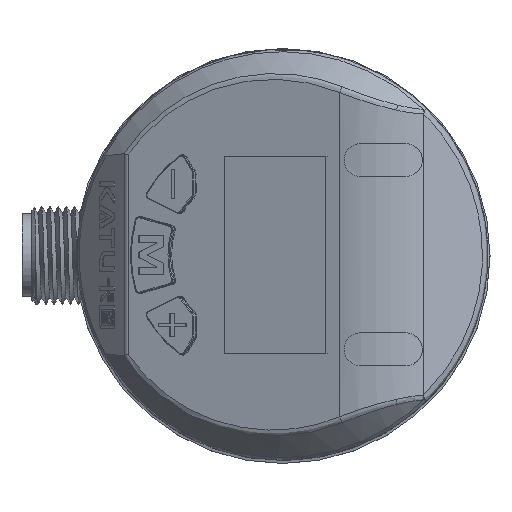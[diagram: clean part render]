
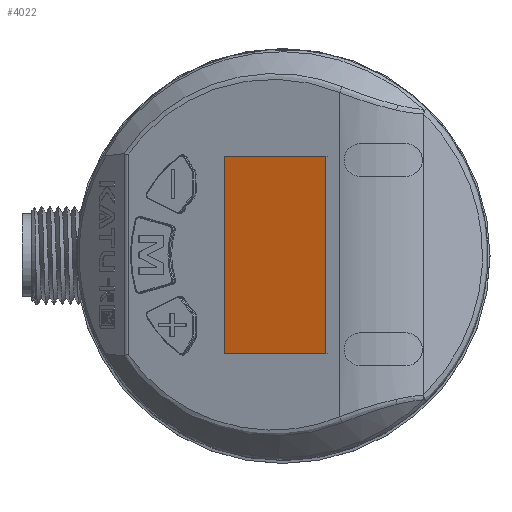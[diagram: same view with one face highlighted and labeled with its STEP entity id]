
A CAD part, top view. The second image highlights one B-rep face of the part: STEP entity #4022.
In plain terms, the highlighted planar face has unit normal (-0.342, 0, 0.94).
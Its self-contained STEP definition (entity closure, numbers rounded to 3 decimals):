
#826=LINE('',#19884,#1554);
#827=LINE('',#19887,#1555);
#828=LINE('',#19889,#1556);
#829=LINE('',#19891,#1557);
#1554=VECTOR('',#13405,1.);
#1555=VECTOR('',#13406,1.);
#1556=VECTOR('',#13407,1.);
#1557=VECTOR('',#13408,1.);
#3034=PLANE('',#10936);
#3467=FACE_OUTER_BOUND('',#5112,.T.);
#4022=ADVANCED_FACE('',(#3467),#3034,.T.);
#5112=EDGE_LOOP('',(#7555,#7556,#7557,#7558));
#7555=ORIENTED_EDGE('',*,*,#9725,.T.);
#7556=ORIENTED_EDGE('',*,*,#9726,.T.);
#7557=ORIENTED_EDGE('',*,*,#9727,.T.);
#7558=ORIENTED_EDGE('',*,*,#9728,.T.);
#8481=VERTEX_POINT('',#19885);
#8482=VERTEX_POINT('',#19886);
#8483=VERTEX_POINT('',#19888);
#8484=VERTEX_POINT('',#19890);
#9725=EDGE_CURVE('',#8481,#8482,#826,.T.);
#9726=EDGE_CURVE('',#8482,#8483,#827,.T.);
#9727=EDGE_CURVE('',#8483,#8484,#828,.T.);
#9728=EDGE_CURVE('',#8484,#8481,#829,.T.);
#10936=AXIS2_PLACEMENT_3D('',#19892,#13409,#13410);
#13405=DIRECTION('',(-0.94,0.,-0.342));
#13406=DIRECTION('',(0.,-1.,0.));
#13407=DIRECTION('',(0.94,0.,0.342));
#13408=DIRECTION('',(0.,1.,0.));
#13409=DIRECTION('',(-0.342,0.,0.94));
#13410=DIRECTION('',(-0.94,0.,-0.342));
#19884=CARTESIAN_POINT('',(-130.694,12.006,157.876));
#19885=CARTESIAN_POINT('',(-139.742,12.002,154.583));
#19886=CARTESIAN_POINT('',(-152.061,11.997,150.099));
#19887=CARTESIAN_POINT('',(-152.051,-15.759,150.103));
#19888=CARTESIAN_POINT('',(-152.052,-11.997,150.102));
#19889=CARTESIAN_POINT('',(-130.685,-11.988,157.879));
#19890=CARTESIAN_POINT('',(-139.733,-11.992,154.586));
#19891=CARTESIAN_POINT('',(-139.732,-15.753,154.586));
#19892=CARTESIAN_POINT('',(-130.684,-15.75,157.879));
